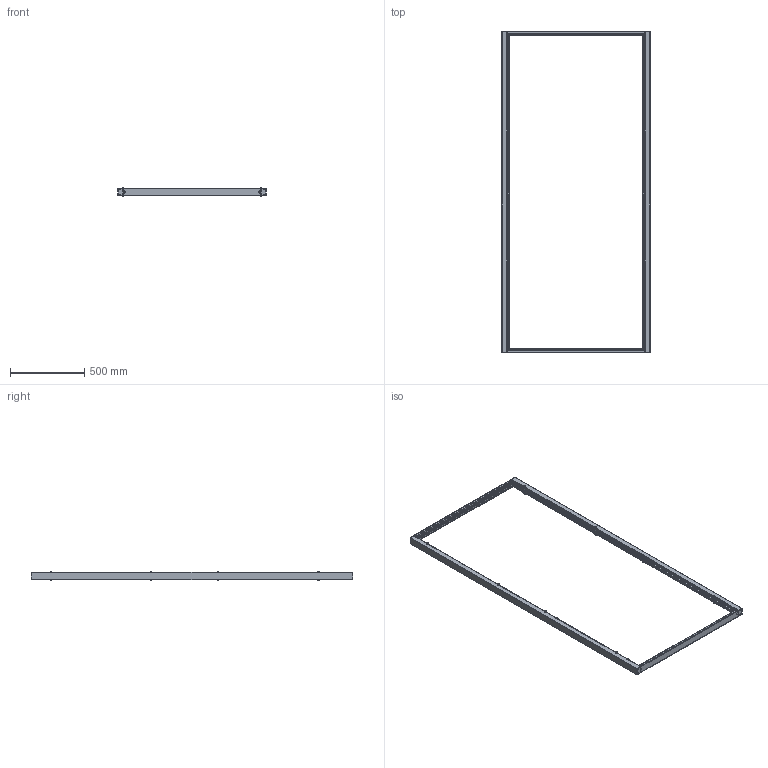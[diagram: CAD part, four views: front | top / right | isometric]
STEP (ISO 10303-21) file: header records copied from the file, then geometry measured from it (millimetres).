
FILE_DESCRIPTION(('CAx-IF Rec.Pracs.---Model Styling and Organization---1.2---2011-12-15','CAx-IF Rec.Pracs.---Geometric and Assembly Validation Properties---4.1---2014-06-16','CAx-IF Rec.Pracs.---PMI Polyline Presentation---2.0---2013-05-24'),'2;1');
FILE_NAME('R5KFRE22100M.stp','2021-05-05T16:25:53+03:00',(''),(''),'STEP Interface 4.4 by CT CoreTechnologie','3D_Evolution4.4 by CT CoreTechnologie','');
FILE_SCHEMA(('AUTOMOTIVE_DESIGN { 1 0 10303 214 1 1 1 1 }'));
Length unit declared in the file: millimetre
Products named in the file (12): R5KFRE22100M; AC00C164; M6x16-GOST 11738-84 (DIN 912)_thread; RB.0880.00.00.0 ÑÁ_-16 (-22100); RB.0880.02.00.0 ÑÁ_-02 (-2200)(1); RB.0880.02.02.0_-02; RB.0880.02.01.0_-02; RB.0880.01.00.0 ÑÁ_-04 (-1000)(1); RB.0880.01.02.0_-04; RB.0880.01.01.0_-04; RB.0880.01.00.0 ÑÁ_-04 (-1000)(2); RB.0880.02.00.0 ÑÁ_-02 (-2200)(2)
Assembly tree (37 placements, depth 4):
  R5KFRE22100M
    AC00C164  x8
    M6x16-GOST 11738-84 (DIN 912)_thread  x16
    RB.0880.00.00.0 ÑÁ_-16 (-22100)
      RB.0880.02.00.0 ÑÁ_-02 (-2200)(1)
        RB.0880.02.02.0_-02
        RB.0880.02.01.0_-02
      RB.0880.01.00.0 ÑÁ_-04 (-1000)(1)
        RB.0880.01.02.0_-04
        RB.0880.01.01.0_-04
      RB.0880.01.00.0 ÑÁ_-04 (-1000)(2)
        RB.0880.01.02.0_-04
        RB.0880.01.01.0_-04
      RB.0880.02.00.0 ÑÁ_-02 (-2200)(2)
        RB.0880.02.02.0_-02
        RB.0880.02.01.0_-02
Bounding box: 997.5 x 2161 x 66.5 mm (x, y, z)
Surface area: 2509503.6 mm2 (no closed solid volume)
Topology: 0 solids, 52 shells, 1484 faces, 3876 edges, 2480 vertices
Faces by surface type: plane 868, cylinder 440, bspline 176
Entity records: 18497 total; most frequent: CARTESIAN_POINT 3306, DIRECTION 2984, ORIENTED_EDGE 2964, EDGE_CURVE 1482, VECTOR 1018, LINE 1018, AXIS2_PLACEMENT_3D 983, VERTEX_POINT 977
